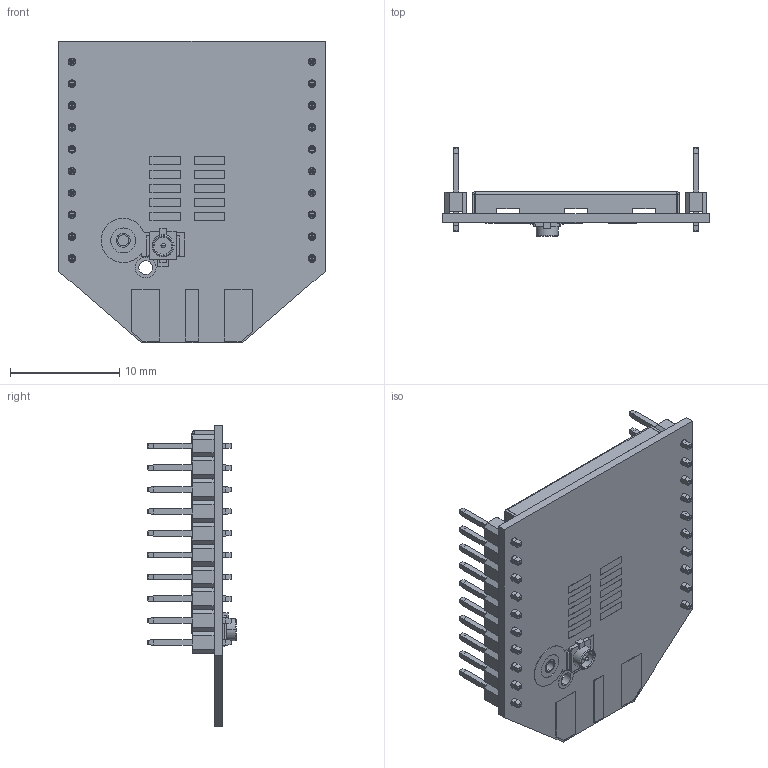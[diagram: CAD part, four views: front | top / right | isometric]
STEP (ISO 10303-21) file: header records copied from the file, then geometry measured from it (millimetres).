
FILE_DESCRIPTION (( 'STEP AP214' ), '1' );
FILE_NAME ('XBee-U.FL.STEP', '2021-03-03T00:08:26', ( 'Digi User' ), ( 'Digi International' ), 'SwSTEP 2.0', 'SolidWorks 2020', '' );
FILE_SCHEMA (( 'AUTOMOTIVE_DESIGN' ));
Length unit declared in the file: inch
Products named in the file (7): 2mmX10_straight; u.fl; XBee_board; 2mmHeaderPin_straight; XBee-U.FL; 60001440-01_DefaultSM-FLAT-PATTERN
Assembly tree (25 placements, depth 3):
  XBee-U.FL
    XBee_board
    2mmX10_straight
      2mmHeaderPin_straight  x10
    2mmX10_straight
      2mmHeaderPin_straight  x10
    u.fl
    60001440-01_DefaultSM-FLAT-PATTERN
Bounding box: 24.38 x 8.11 x 27.61 mm (x, y, z)
Volume: 752.6 mm3; surface area: 3027.7 mm2
Topology: 23 solids, 23 shells, 1247 faces, 2860 edges, 1760 vertices
Faces by surface type: plane 872, cylinder 369, torus 6
Entity records: 12473 total; most frequent: CARTESIAN_POINT 1779, DIRECTION 1772, ORIENTED_EDGE 1692, EDGE_CURVE 846, VECTOR 634, LINE 634, AXIS2_PLACEMENT_3D 569, VERTEX_POINT 544
